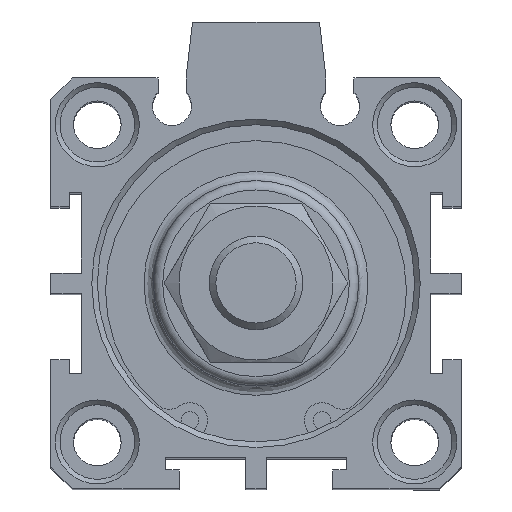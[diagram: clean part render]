
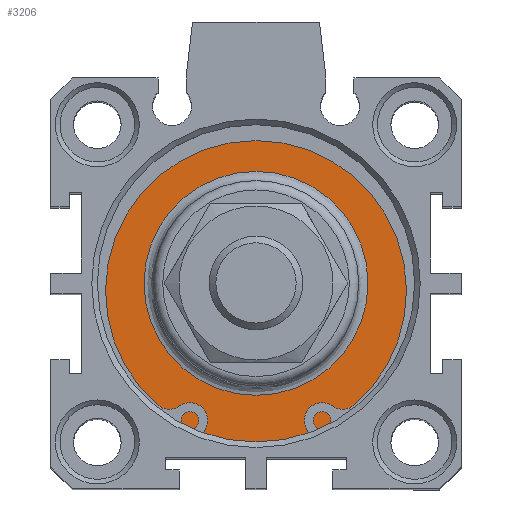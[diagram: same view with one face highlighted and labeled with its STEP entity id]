
A CAD part, top view. The second image highlights one B-rep face of the part: STEP entity #3206.
In plain terms, the highlighted planar face has unit normal (0, 0, 1).
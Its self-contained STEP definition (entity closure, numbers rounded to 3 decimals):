
#3155=CARTESIAN_POINT('',(2.273,12.598,80.8));
#3156=VERTEX_POINT('',#3155);
#3157=CARTESIAN_POINT('',(2.273,0.598,80.8));
#3158=DIRECTION('',(0.0,0.0,1.0));
#3159=DIRECTION('',(0.0,-1.0,0.0));
#3160=AXIS2_PLACEMENT_3D('',#3157,#3158,#3159);
#3161=CIRCLE('',#3160,12.);
#3162=EDGE_CURVE('',#3156,#3156,#3161,.T.);
#3187=CARTESIAN_POINT('',(2.273,14.598,80.8));
#3188=DIRECTION('',(0.0,0.0,1.0));
#3189=DIRECTION('',(1.0,0.0,0.0));
#3190=AXIS2_PLACEMENT_3D('',#3187,#3188,#3189);
#3191=PLANE('',#3190);
#3192=CARTESIAN_POINT('',(2.273,17.598,80.8));
#3193=VERTEX_POINT('',#3192);
#3194=CARTESIAN_POINT('',(2.273,0.598,80.8));
#3195=DIRECTION('',(0.0,0.0,-1.0));
#3196=DIRECTION('',(0.0,1.0,0.0));
#3197=AXIS2_PLACEMENT_3D('',#3194,#3195,#3196);
#3198=CIRCLE('',#3197,17.);
#3199=EDGE_CURVE('',#3193,#3193,#3198,.T.);
#3200=ORIENTED_EDGE('',*,*,#3199,.F.);
#3201=EDGE_LOOP('',(#3200));
#3202=FACE_OUTER_BOUND('',#3201,.T.);
#3203=ORIENTED_EDGE('',*,*,#3162,.F.);
#3204=EDGE_LOOP('',(#3203));
#3205=FACE_BOUND('',#3204,.T.);
#3206=ADVANCED_FACE('',(#3202,#3205),#3191,.T.);
